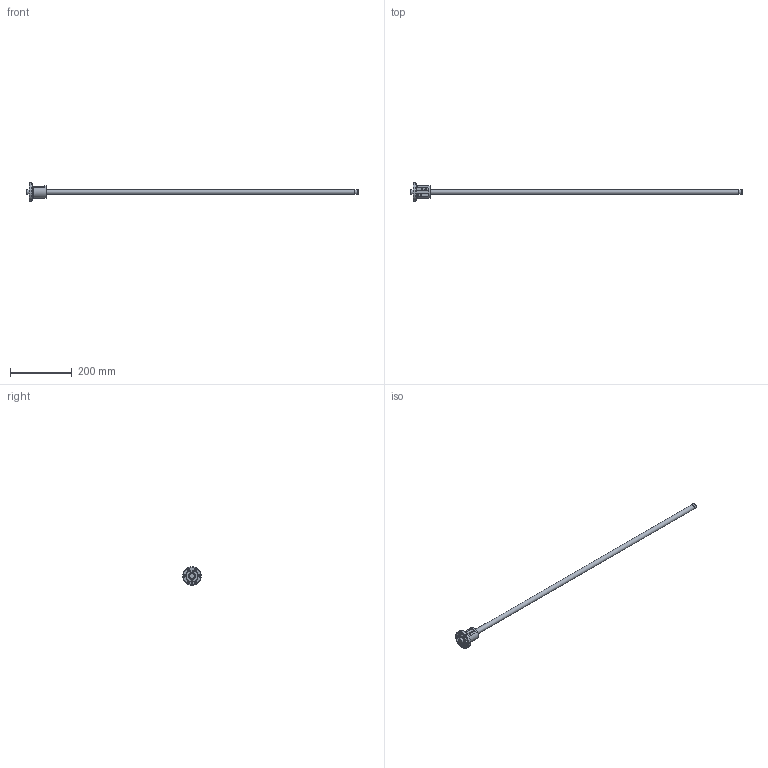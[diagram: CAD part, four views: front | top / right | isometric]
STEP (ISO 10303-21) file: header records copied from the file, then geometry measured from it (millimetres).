
FILE_DESCRIPTION( ( 'STEP AP203' ), ' ' );
FILE_NAME( 'p:/temp/worker_49/1856_1980/app_74_12018011811153480943159818fa3fd_000000_00_00_000000/format_0/BIF1605-5RRG0+1076LC5_10000.stp', '2018-01-18T10:15:35', ( '' ), ( '' ), ' ', 'PARTsolutions', ' ' );
FILE_SCHEMA( ( 'CONFIG_CONTROL_DESIGN' ) );
Length unit declared in the file: millimetre
Products named in the file (3): BIF1605-5RRG0+1076LC5_10000; _BIF 1605-5RR1000500 Shaft; _BIF 1605-5RR Nut
Assembly tree (2 placements, depth 2):
  BIF1605-5RRG0+1076LC5_10000
    _BIF 1605-5RR1000500 Shaft
    _BIF 1605-5RR Nut
Bounding box: 1076 x 60 x 60 mm (x, y, z)
Volume: 282847.3 mm3; surface area: 72247.8 mm2
Topology: 2 solids, 2 shells, 82 faces, 189 edges, 118 vertices
Faces by surface type: cylinder 39, plane 31, cone 8, torus 4
Full cylindrical faces by diameter (mm): 3 x2, 3.6 x4, 4.5 x6, 4.917 x1, 8 x6, 15.5 x2, 16 x4, 24 x2, 40 x1, 60 x1
Entity records: 2432 total; most frequent: CARTESIAN_POINT 619, DIRECTION 386, ORIENTED_EDGE 272, AXIS2_PLACEMENT_3D 177, EDGE_LOOP 150, EDGE_CURVE 136, FACE_OUTER_BOUND 111, VERTEX_POINT 102
